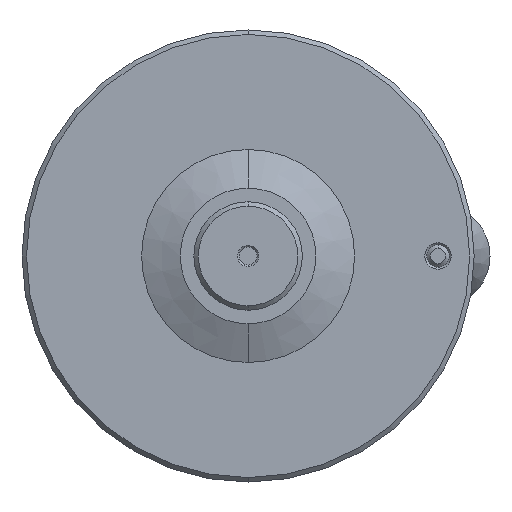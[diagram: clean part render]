
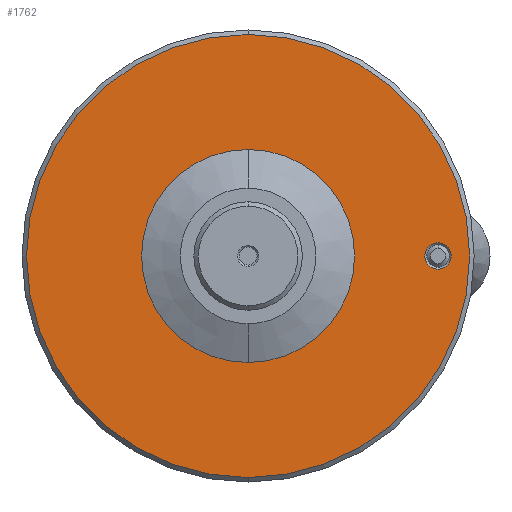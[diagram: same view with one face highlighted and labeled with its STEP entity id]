
A CAD part, front view. The second image highlights one B-rep face of the part: STEP entity #1762.
In plain terms, the highlighted planar face has unit normal (0, -1, 0).
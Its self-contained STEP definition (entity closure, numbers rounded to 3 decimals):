
#2 = CIRCLE ( 'NONE', #1450, 23.559 ) ;
#13 = EDGE_CURVE ( 'NONE', #1561, #855, #1470, .T. ) ;
#113 = DIRECTION ( 'NONE',  ( 0., -1., 0. ) ) ;
#114 = CARTESIAN_POINT ( 'NONE',  ( 0., -9., 0. ) ) ;
#156 = FACE_OUTER_BOUND ( 'NONE', #638, .T. ) ;
#247 = CARTESIAN_POINT ( 'NONE',  ( 0., -9., 23.559 ) ) ;
#319 = EDGE_CURVE ( 'NONE', #1080, #1761, #1107, .T. ) ;
#333 = CARTESIAN_POINT ( 'NONE',  ( 42., -9., 0. ) ) ;
#376 = PLANE ( 'NONE',  #1130 ) ;
#439 = DIRECTION ( 'NONE',  ( 0., 0., -1. ) ) ;
#453 = AXIS2_PLACEMENT_3D ( 'NONE', #114, #1146, #1129 ) ;
#469 = DIRECTION ( 'NONE',  ( 0., -1., 0. ) ) ;
#473 = AXIS2_PLACEMENT_3D ( 'NONE', #333, #1625, #1058 ) ;
#489 = CARTESIAN_POINT ( 'NONE',  ( 0., -9., 49. ) ) ;
#550 = ORIENTED_EDGE ( 'NONE', *, *, #13, .T. ) ;
#567 = DIRECTION ( 'NONE',  ( 0., 1., 0. ) ) ;
#590 = ORIENTED_EDGE ( 'NONE', *, *, #1208, .T. ) ;
#622 = EDGE_CURVE ( 'NONE', #855, #1561, #1729, .T. ) ;
#626 = EDGE_CURVE ( 'NONE', #1410, #889, #754, .T. ) ;
#638 = EDGE_LOOP ( 'NONE', ( #590, #696 ) ) ;
#651 = CARTESIAN_POINT ( 'NONE',  ( 0., -9., -49. ) ) ;
#660 = EDGE_CURVE ( 'NONE', #1761, #1080, #2, .T. ) ;
#695 = CARTESIAN_POINT ( 'NONE',  ( 42., -9., 0. ) ) ;
#696 = ORIENTED_EDGE ( 'NONE', *, *, #626, .T. ) ;
#742 = CARTESIAN_POINT ( 'NONE',  ( 42., -9., 2.9 ) ) ;
#751 = ORIENTED_EDGE ( 'NONE', *, *, #319, .T. ) ;
#754 = CIRCLE ( 'NONE', #453, 49. ) ;
#790 = AXIS2_PLACEMENT_3D ( 'NONE', #1126, #1563, #1277 ) ;
#836 = AXIS2_PLACEMENT_3D ( 'NONE', #897, #469, #1616 ) ;
#855 = VERTEX_POINT ( 'NONE', #742 ) ;
#889 = VERTEX_POINT ( 'NONE', #489 ) ;
#897 = CARTESIAN_POINT ( 'NONE',  ( 0., -9., 0. ) ) ;
#919 = ORIENTED_EDGE ( 'NONE', *, *, #622, .T. ) ;
#959 = CARTESIAN_POINT ( 'NONE',  ( 0., -9., 23.559 ) ) ;
#1045 = EDGE_LOOP ( 'NONE', ( #550, #919 ) ) ;
#1058 = DIRECTION ( 'NONE',  ( 0., 0., -1. ) ) ;
#1080 = VERTEX_POINT ( 'NONE', #247 ) ;
#1104 = DIRECTION ( 'NONE',  ( 0., 0., -1. ) ) ;
#1107 = CIRCLE ( 'NONE', #790, 23.559 ) ;
#1126 = CARTESIAN_POINT ( 'NONE',  ( 0., -9., 0. ) ) ;
#1129 = DIRECTION ( 'NONE',  ( 0., 0., -1. ) ) ;
#1130 = AXIS2_PLACEMENT_3D ( 'NONE', #959, #113, #1104 ) ;
#1146 = DIRECTION ( 'NONE',  ( 0., -1., 0. ) ) ;
#1167 = DIRECTION ( 'NONE',  ( 0., 0., 1. ) ) ;
#1179 = FACE_BOUND ( 'NONE', #1045, .T. ) ;
#1208 = EDGE_CURVE ( 'NONE', #889, #1410, #1774, .T. ) ;
#1258 = CARTESIAN_POINT ( 'NONE',  ( 0., -9., -23.559 ) ) ;
#1277 = DIRECTION ( 'NONE',  ( 0., 0., 1. ) ) ;
#1410 = VERTEX_POINT ( 'NONE', #651 ) ;
#1450 = AXIS2_PLACEMENT_3D ( 'NONE', #1706, #1722, #1167 ) ;
#1470 = CIRCLE ( 'NONE', #473, 2.9 ) ;
#1561 = VERTEX_POINT ( 'NONE', #1626 ) ;
#1563 = DIRECTION ( 'NONE',  ( 0., 1., 0. ) ) ;
#1569 = ORIENTED_EDGE ( 'NONE', *, *, #660, .T. ) ;
#1582 = FACE_BOUND ( 'NONE', #1758, .T. ) ;
#1604 = AXIS2_PLACEMENT_3D ( 'NONE', #695, #567, #439 ) ;
#1616 = DIRECTION ( 'NONE',  ( 0., 0., -1. ) ) ;
#1625 = DIRECTION ( 'NONE',  ( 0., 1., 0. ) ) ;
#1626 = CARTESIAN_POINT ( 'NONE',  ( 42., -9., -2.9 ) ) ;
#1706 = CARTESIAN_POINT ( 'NONE',  ( 0., -9., 0. ) ) ;
#1722 = DIRECTION ( 'NONE',  ( 0., 1., 0. ) ) ;
#1729 = CIRCLE ( 'NONE', #1604, 2.9 ) ;
#1758 = EDGE_LOOP ( 'NONE', ( #751, #1569 ) ) ;
#1761 = VERTEX_POINT ( 'NONE', #1258 ) ;
#1762 = ADVANCED_FACE ( 'NONE', ( #1179, #156, #1582 ), #376, .T. ) ;
#1774 = CIRCLE ( 'NONE', #836, 49. ) ;
